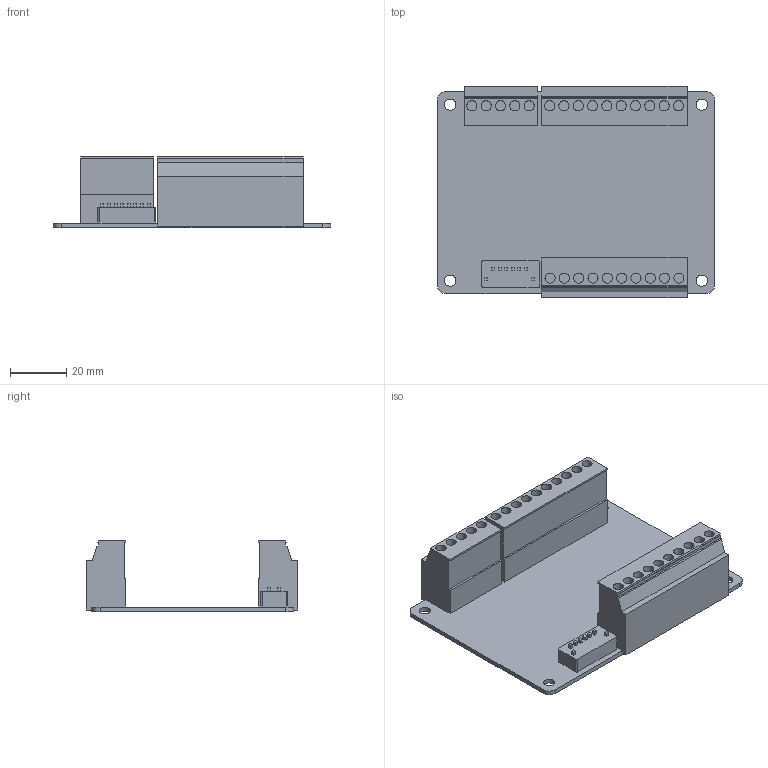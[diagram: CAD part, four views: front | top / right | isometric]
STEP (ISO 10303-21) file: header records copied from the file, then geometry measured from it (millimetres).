
FILE_DESCRIPTION(/* description */ (''),/* implementation_level */ '2;1');
FILE_NAME(/* name */ 'zio0808模型外发.stp',/* time_stamp */ '2021-10-09T10:35:29+08:00',/* author */ (''),/* organization */ (''),/* preprocessor_version */ 'ST-DEVELOPER v16',/* originating_system */ 'SIEMENS PLM Software NX 10.0',/* authorisation */ '');
FILE_SCHEMA (('AUTOMOTIVE_DESIGN { 1 0 10303 214 3 1 1 1 }'));
Length unit declared in the file: millimetre
Products named in the file (1): zio0808模型外发
Bounding box: 98.48 x 75.13 x 25.2 mm (x, y, z)
Volume: 47811.2 mm3; surface area: 27462.1 mm2
Topology: 1 solids, 1 shells, 161 faces, 400 edges, 275 vertices
Faces by surface type: plane 124, cylinder 37
Full cylindrical faces by diameter (mm): 3.6 x25, 4 x4
Entity records: 4828 total; most frequent: CARTESIAN_POINT 854, DIRECTION 712, ORIENTED_EDGE 692, EDGE_CURVE 346, VERTEX_POINT 250, LINE 240, VECTOR 240, AXIS2_PLACEMENT_3D 236
